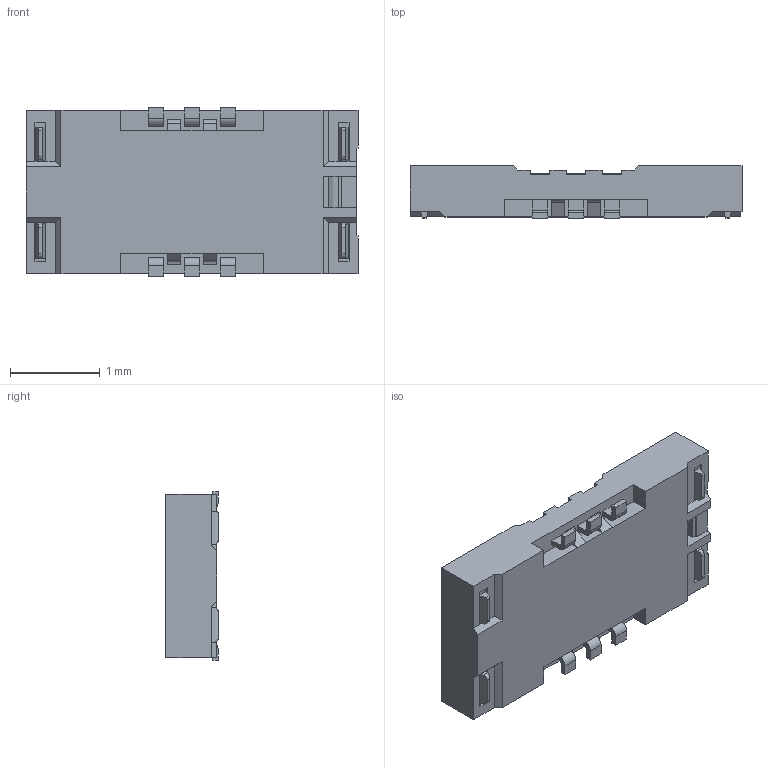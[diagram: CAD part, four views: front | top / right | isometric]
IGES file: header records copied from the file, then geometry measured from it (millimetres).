
Start section: SolidWorks IGES file using analytic representation for surfaces
Global section: file name: \\192.168.40.241\技術部共有\個人用\99 個人フォルダ\kurokawa(黒川)\20180731\NOVA4\20642 3D data.IGS; native system: SolidWorks 2017; preprocessor: SolidWorks 2017; author: ipxcad-010; date: 180731.173837; units: millimetre
Bounding box: 3.7 x 0.58 x 1.88 mm (x, y, z)
Surface area: 26 mm2 (no closed solid volume)
Topology: 0 solids, 0 shells, 283 faces, 1660 edges, 1660 vertices
Faces by surface type: bspline 251, revolution 32
